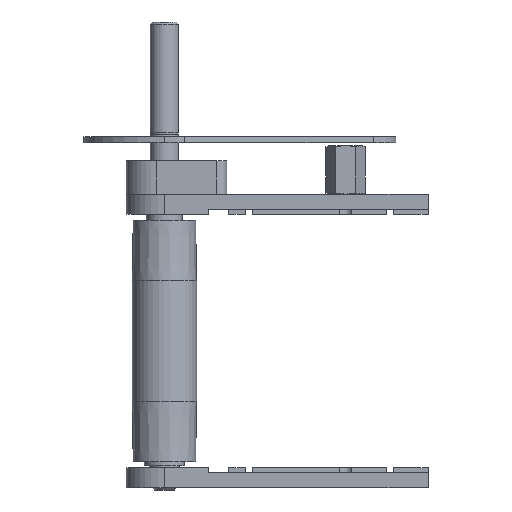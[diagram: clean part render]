
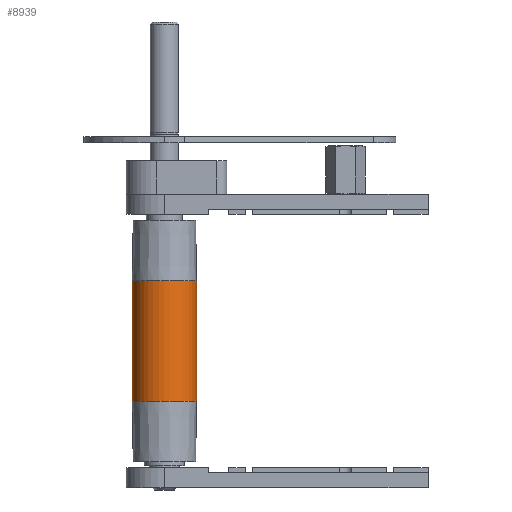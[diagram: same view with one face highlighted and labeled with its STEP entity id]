
A CAD part, front view. The second image highlights one B-rep face of the part: STEP entity #8939.
In plain terms, the highlighted cylindrical face has radius 16 mm (diameter 32 mm), a partial arc.
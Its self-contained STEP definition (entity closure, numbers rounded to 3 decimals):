
#394 = VERTEX_POINT ( 'NONE', #4254 ) ;
#418 = CIRCLE ( 'NONE', #8118, 16. ) ;
#1125 = VERTEX_POINT ( 'NONE', #11045 ) ;
#1204 = EDGE_LOOP ( 'NONE', ( #10999, #6770, #10114, #1638 ) ) ;
#1401 = DIRECTION ( 'NONE',  ( 0., 0., 1. ) ) ;
#1638 = ORIENTED_EDGE ( 'NONE', *, *, #3375, .T. ) ;
#1782 = DIRECTION ( 'NONE',  ( 1., 0., 0. ) ) ;
#2286 = EDGE_CURVE ( 'NONE', #394, #8265, #7010, .T. ) ;
#2591 = CARTESIAN_POINT ( 'NONE',  ( 16., 0., 60. ) ) ;
#3375 = EDGE_CURVE ( 'NONE', #4655, #8265, #7947, .T. ) ;
#3424 = CARTESIAN_POINT ( 'NONE',  ( 16., 0., -30. ) ) ;
#3611 = DIRECTION ( 'NONE',  ( -1., 0., 0. ) ) ;
#4254 = CARTESIAN_POINT ( 'NONE',  ( 16., 0., 30. ) ) ;
#4340 = DIRECTION ( 'NONE',  ( 0., 0., -1. ) ) ;
#4467 = CARTESIAN_POINT ( 'NONE',  ( -16., 0., 60. ) ) ;
#4591 = VECTOR ( 'NONE', #4340, 1000. ) ;
#4655 = VERTEX_POINT ( 'NONE', #9532 ) ;
#5177 = FACE_OUTER_BOUND ( 'NONE', #1204, .T. ) ;
#6122 = VECTOR ( 'NONE', #9832, 1000. ) ;
#6360 = CARTESIAN_POINT ( 'NONE',  ( 0., 0., 60. ) ) ;
#6770 = ORIENTED_EDGE ( 'NONE', *, *, #7522, .F. ) ;
#7010 = LINE ( 'NONE', #2591, #4591 ) ;
#7522 = EDGE_CURVE ( 'NONE', #1125, #394, #418, .T. ) ;
#7682 = CARTESIAN_POINT ( 'NONE',  ( 0., 0., 30. ) ) ;
#7947 = CIRCLE ( 'NONE', #9670, 16. ) ;
#8118 = AXIS2_PLACEMENT_3D ( 'NONE', #7682, #1401, #8531 ) ;
#8265 = VERTEX_POINT ( 'NONE', #3424 ) ;
#8531 = DIRECTION ( 'NONE',  ( 1., 0., 0. ) ) ;
#8683 = CYLINDRICAL_SURFACE ( 'NONE', #10578, 16. ) ;
#8939 = ADVANCED_FACE ( 'NONE', ( #5177 ), #8683, .T. ) ;
#9006 = DIRECTION ( 'NONE',  ( 0., 0., 1. ) ) ;
#9532 = CARTESIAN_POINT ( 'NONE',  ( -16., 0., -30. ) ) ;
#9670 = AXIS2_PLACEMENT_3D ( 'NONE', #10787, #9006, #1782 ) ;
#9832 = DIRECTION ( 'NONE',  ( 0., 0., -1. ) ) ;
#10016 = DIRECTION ( 'NONE',  ( 0., 0., -1. ) ) ;
#10114 = ORIENTED_EDGE ( 'NONE', *, *, #10326, .T. ) ;
#10326 = EDGE_CURVE ( 'NONE', #1125, #4655, #11367, .T. ) ;
#10578 = AXIS2_PLACEMENT_3D ( 'NONE', #6360, #10016, #3611 ) ;
#10787 = CARTESIAN_POINT ( 'NONE',  ( 0., 0., -30. ) ) ;
#10999 = ORIENTED_EDGE ( 'NONE', *, *, #2286, .F. ) ;
#11045 = CARTESIAN_POINT ( 'NONE',  ( -16., 0., 30. ) ) ;
#11367 = LINE ( 'NONE', #4467, #6122 ) ;
